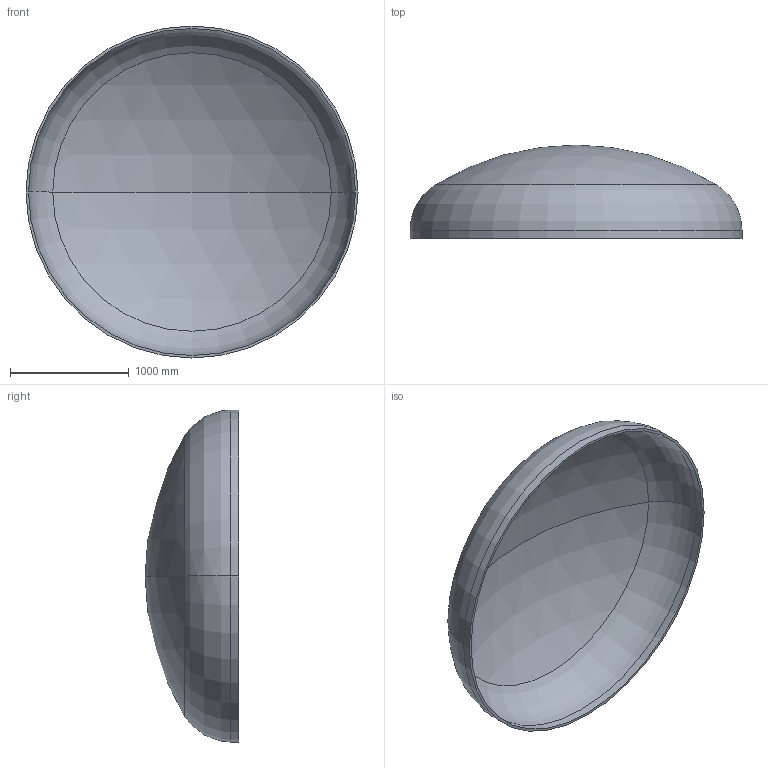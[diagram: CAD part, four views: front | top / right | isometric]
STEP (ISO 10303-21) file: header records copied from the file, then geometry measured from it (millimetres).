
FILE_DESCRIPTION (( 'STEP AP203' ), '1' );
FILE_NAME ('DIN 28013 Korbbogenform_-_Boden DIN 28013 - 2800 x 70 - I - s=21.step', '2016-07-01T16:47:23', ( '' ), ( '' ), 'SwSTEP 2.0', 'SolidWorks 2013', '' );
FILE_SCHEMA (( 'CONFIG_CONTROL_DESIGN' ));
Length unit declared in the file: millimetre
Products named in the file (1): DIN 28013 Korbbogenform_-_Boden DIN 28013 - 2800 x 70 - I - s=21
Bounding box: 2800 x 789.73 x 2800 mm (x, y, z)
Volume: 190061357.1 mm3; surface area: 18285338.6 mm2
Topology: 1 solids, 1 shells, 13 faces, 24 edges, 14 vertices
Faces by surface type: torus 4, cylinder 4, sphere 4, plane 1
Entity records: 407 total; most frequent: DIRECTION 72, CARTESIAN_POINT 52, ORIENTED_EDGE 48, AXIS2_PLACEMENT_3D 34, EDGE_CURVE 24, CIRCLE 20, EDGE_LOOP 14, VERTEX_POINT 14
